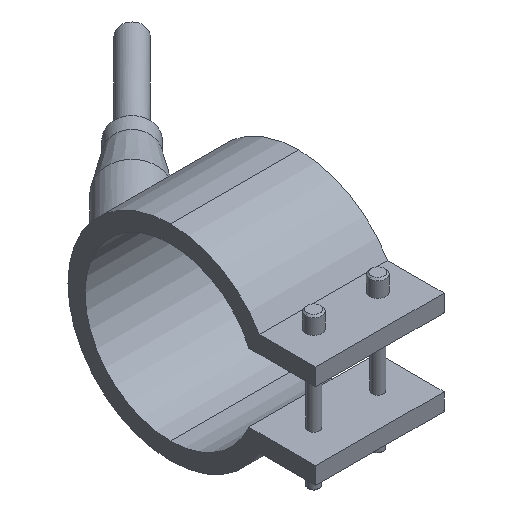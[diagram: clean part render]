
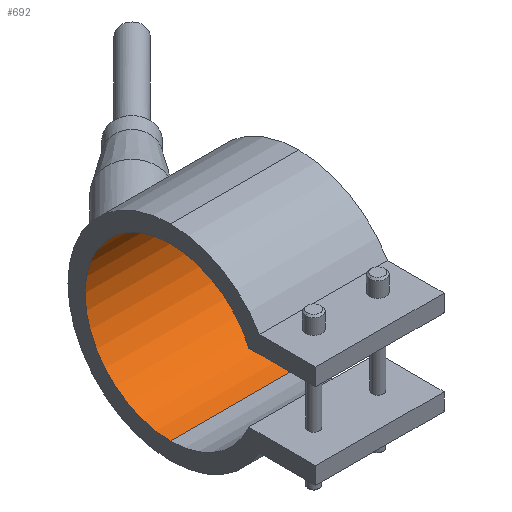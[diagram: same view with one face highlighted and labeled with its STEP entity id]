
A CAD part, isometric view. The second image highlights one B-rep face of the part: STEP entity #692.
In plain terms, the highlighted cylindrical face has radius 20 mm (diameter 40 mm), a partial arc.
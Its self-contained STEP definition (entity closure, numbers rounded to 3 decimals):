
#362=CARTESIAN_POINT('Vertex',(15.,0.,20.)) ;
#367=CARTESIAN_POINT('Axis2P3D Location',(15.,0.,0.)) ;
#371=CARTESIAN_POINT('Vertex',(15.,0.,-20.)) ;
#478=CARTESIAN_POINT('Vertex',(-15.,0.,-20.)) ;
#481=CARTESIAN_POINT('Axis2P3D Location',(-15.,0.,0.)) ;
#485=CARTESIAN_POINT('Vertex',(-15.,0.,20.)) ;
#664=CARTESIAN_POINT('Line Origine',(15.,0.,20.)) ;
#676=CARTESIAN_POINT('Axis2P3D Location',(15.,0.,0.)) ;
#681=CARTESIAN_POINT('Line Origine',(15.,0.,-20.)) ;
#368=DIRECTION('Axis2P3D Direction',(1.,0.,0.)) ;
#482=DIRECTION('Axis2P3D Direction',(1.,0.,0.)) ;
#665=DIRECTION('Vector Direction',(1.,0.,0.)) ;
#677=DIRECTION('Axis2P3D Direction',(1.,0.,-0.)) ;
#678=DIRECTION('Axis2P3D XDirection',(0.,0.,-1.)) ;
#682=DIRECTION('Vector Direction',(1.,0.,0.)) ;
#369=AXIS2_PLACEMENT_3D('Circle Axis2P3D',#367,#368,$) ;
#483=AXIS2_PLACEMENT_3D('Circle Axis2P3D',#481,#482,$) ;
#679=AXIS2_PLACEMENT_3D('Cylinder Axis2P3D',#676,#677,#678) ;
#687=ORIENTED_EDGE('',*,*,#373,.T.) ;
#688=ORIENTED_EDGE('',*,*,#668,.T.) ;
#689=ORIENTED_EDGE('',*,*,#487,.F.) ;
#690=ORIENTED_EDGE('',*,*,#685,.T.) ;
#666=VECTOR('Line Direction',#665,1.) ;
#683=VECTOR('Line Direction',#682,1.) ;
#692=ADVANCED_FACE('29040030',(#691),#680,.F.) ;
#370=CIRCLE('generated circle',#369,20.) ;
#484=CIRCLE('generated circle',#483,20.) ;
#680=CYLINDRICAL_SURFACE('generated cylinder',#679,20.) ;
#373=EDGE_CURVE('',#372,#363,#370,.T.) ;
#487=EDGE_CURVE('',#479,#486,#484,.T.) ;
#668=EDGE_CURVE('',#363,#486,#667,.F.) ;
#685=EDGE_CURVE('',#479,#372,#684,.T.) ;
#686=EDGE_LOOP('',(#687,#688,#689,#690)) ;
#691=FACE_OUTER_BOUND('',#686,.T.) ;
#667=LINE('Line',#664,#666) ;
#684=LINE('Line',#681,#683) ;
#363=VERTEX_POINT('',#362) ;
#372=VERTEX_POINT('',#371) ;
#479=VERTEX_POINT('',#478) ;
#486=VERTEX_POINT('',#485) ;
